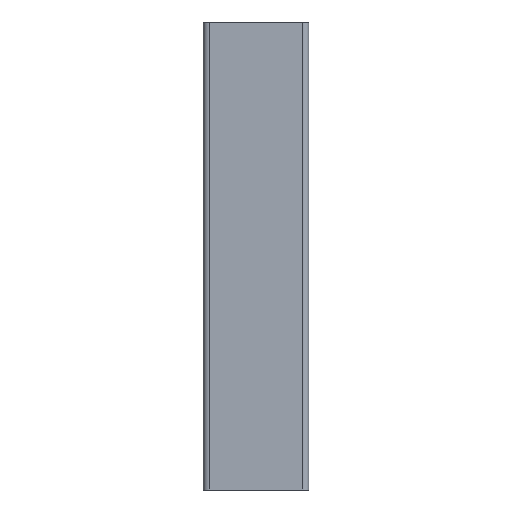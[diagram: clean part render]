
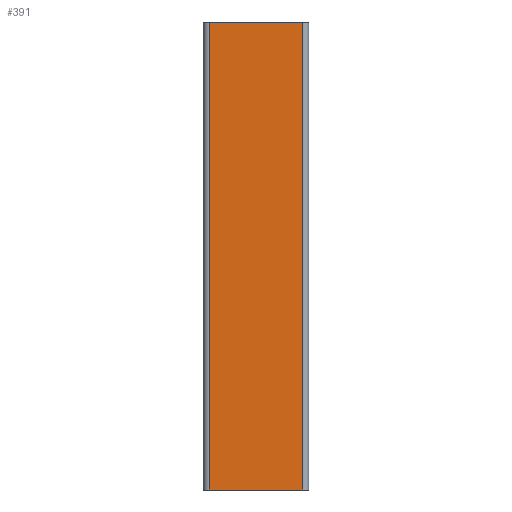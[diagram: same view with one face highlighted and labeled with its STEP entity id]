
A CAD part, left-side view. The second image highlights one B-rep face of the part: STEP entity #391.
In plain terms, the highlighted planar face has unit normal (-1, 0, 0).
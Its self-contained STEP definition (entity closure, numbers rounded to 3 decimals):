
#27 = ORIENTED_EDGE ( 'NONE', *, *, #1842, .T. ) ;
#37 = ORIENTED_EDGE ( 'NONE', *, *, #2827, .F. ) ;
#40 = ORIENTED_EDGE ( 'NONE', *, *, #2941, .F. ) ;
#57 = ORIENTED_EDGE ( 'NONE', *, *, #374, .T. ) ;
#137 = VERTEX_POINT ( 'NONE', #1620 ) ;
#172 = VERTEX_POINT ( 'NONE', #1354 ) ;
#279 = DIRECTION ( 'NONE',  ( 0., -1., 0. ) ) ;
#282 = LINE ( 'NONE', #1686, #296 ) ;
#290 = FACE_OUTER_BOUND ( 'NONE', #2833, .T. ) ;
#296 = VECTOR ( 'NONE', #1704, 1000. ) ;
#322 = CARTESIAN_POINT ( 'NONE',  ( -9.456, 20.026, 0. ) ) ;
#374 = EDGE_CURVE ( 'NONE', #2577, #2064, #282, .T. ) ;
#391 = ADVANCED_FACE ( 'NONE', ( #290 ), #1869, .F. ) ;
#828 = CARTESIAN_POINT ( 'NONE',  ( -9.456, 20.026, 200. ) ) ;
#1114 = DIRECTION ( 'NONE',  ( 0., 0., -1. ) ) ;
#1235 = LINE ( 'NONE', #322, #2979 ) ;
#1281 = CARTESIAN_POINT ( 'NONE',  ( -9.456, -20.052, 200. ) ) ;
#1354 = CARTESIAN_POINT ( 'NONE',  ( -9.456, -20.052, 200. ) ) ;
#1620 = CARTESIAN_POINT ( 'NONE',  ( -9.456, -20.052, 0. ) ) ;
#1653 = VECTOR ( 'NONE', #2866, 1000. ) ;
#1660 = LINE ( 'NONE', #2881, #1653 ) ;
#1686 = CARTESIAN_POINT ( 'NONE',  ( -9.456, 20.026, 200. ) ) ;
#1704 = DIRECTION ( 'NONE',  ( 0., 0., -1. ) ) ;
#1830 = VECTOR ( 'NONE', #1114, 1000. ) ;
#1833 = LINE ( 'NONE', #1281, #1830 ) ;
#1842 = EDGE_CURVE ( 'NONE', #2064, #137, #1235, .T. ) ;
#1869 = PLANE ( 'NONE',  #2164 ) ;
#1876 = DIRECTION ( 'NONE',  ( 1., 0., 0. ) ) ;
#1899 = CARTESIAN_POINT ( 'NONE',  ( -9.456, 20.026, 200. ) ) ;
#1922 = DIRECTION ( 'NONE',  ( 0., 0., -1. ) ) ;
#2064 = VERTEX_POINT ( 'NONE', #2468 ) ;
#2164 = AXIS2_PLACEMENT_3D ( 'NONE', #1899, #1876, #1922 ) ;
#2468 = CARTESIAN_POINT ( 'NONE',  ( -9.456, 20.026, 0. ) ) ;
#2577 = VERTEX_POINT ( 'NONE', #828 ) ;
#2827 = EDGE_CURVE ( 'NONE', #172, #137, #1833, .T. ) ;
#2833 = EDGE_LOOP ( 'NONE', ( #27, #37, #40, #57 ) ) ;
#2866 = DIRECTION ( 'NONE',  ( 0., -1., 0. ) ) ;
#2881 = CARTESIAN_POINT ( 'NONE',  ( -9.456, 20.026, 200. ) ) ;
#2941 = EDGE_CURVE ( 'NONE', #2577, #172, #1660, .T. ) ;
#2979 = VECTOR ( 'NONE', #279, 1000. ) ;
